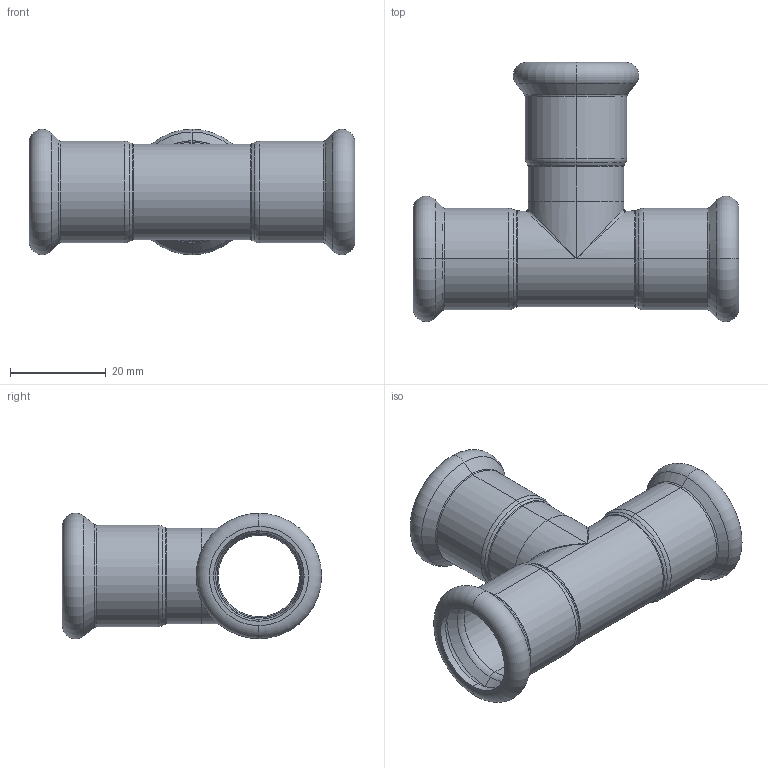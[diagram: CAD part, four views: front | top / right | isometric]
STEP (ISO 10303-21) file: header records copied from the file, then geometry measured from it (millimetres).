
FILE_DESCRIPTION (( 'STEP AP203' ), '1' );
FILE_NAME ('GDA5182.STEP', '2019-01-14T01:46:39', ( '' ), ( '' ), 'SwSTEP 2.0', 'SolidWorks 2015', '' );
FILE_SCHEMA (( 'CONFIG_CONTROL_DESIGN' ));
Length unit declared in the file: millimetre
Products named in the file (3): T(R)-¢ñ-18¡Á18''; GDA5182; T-ｉ-01-18
Assembly tree (2 placements, depth 2):
  GDA5182
    T(R)-¢ñ-18¡Á18''
    T-ｉ-01-18
Bounding box: 68 x 54.1 x 26.2 mm (x, y, z)
Volume: 9796 mm3; surface area: 13508.2 mm2
Topology: 2 solids, 2 shells, 115 faces, 235 edges, 120 vertices
Faces by surface type: torus 48, cylinder 32, cone 24, plane 8, bspline 3
Entity records: 3527 total; most frequent: CARTESIAN_POINT 769, DIRECTION 620, ORIENTED_EDGE 458, AXIS2_PLACEMENT_3D 281, EDGE_CURVE 229, CIRCLE 164, EDGE_LOOP 123, VERTEX_POINT 120
